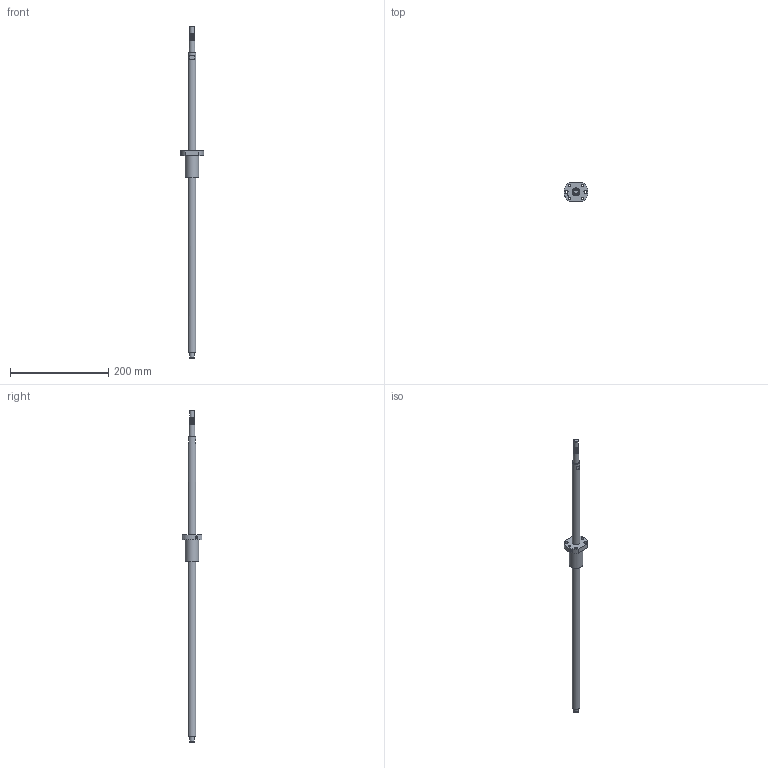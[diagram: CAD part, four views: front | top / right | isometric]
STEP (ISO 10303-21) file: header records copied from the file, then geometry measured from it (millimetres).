
FILE_DESCRIPTION(/* description */ (''),/* implementation_level */ '2;1');
FILE_NAME(/* name */ 'BSG143_asm1.stp',/* time_stamp */ '2017-01-07T08:51:00+08:00',/* author */ (''),/* organization */ (''),/* preprocessor_version */ 'ST-DEVELOPER v15',/* originating_system */ 'SIEMENS PLM Software NX 8.5',/* authorisation */ '');
FILE_SCHEMA (('AUTOMOTIVE_DESIGN { 1 0 10303 214 3 1 1 1 }'));
Length unit declared in the file: millimetre
Products named in the file (3): 01; BSG143; BSG143_asm1
Assembly tree (2 placements, depth 2):
  BSG143_asm1
    BSG143
    01
Bounding box: 48 x 40 x 675 mm (x, y, z)
Volume: 160176 mm3; surface area: 45767.5 mm2
Topology: 2 solids, 2 shells, 56 faces, 137 edges, 94 vertices
Faces by surface type: cylinder 28, plane 24, bspline 2, cone 2
Full cylindrical faces by diameter (mm): 5 x1, 5.5 x6, 6 x1, 9.6 x1, 10 x3, 12 x8, 16 x2, 28 x1
Entity records: 2497 total; most frequent: CARTESIAN_POINT 1414, DIRECTION 212, ORIENTED_EDGE 170, AXIS2_PLACEMENT_3D 92, EDGE_LOOP 90, EDGE_CURVE 85, FACE_BOUND 69, VERTEX_POINT 67
